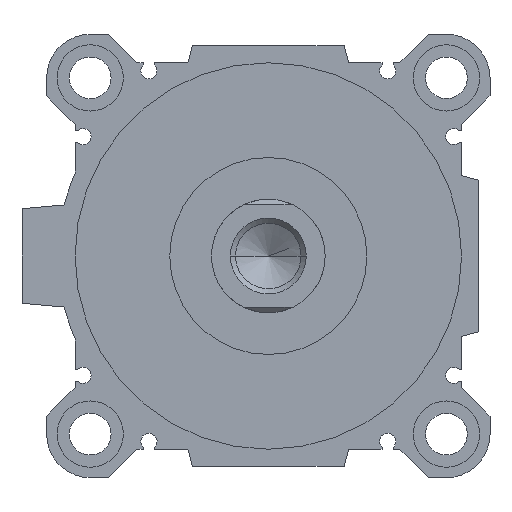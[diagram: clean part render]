
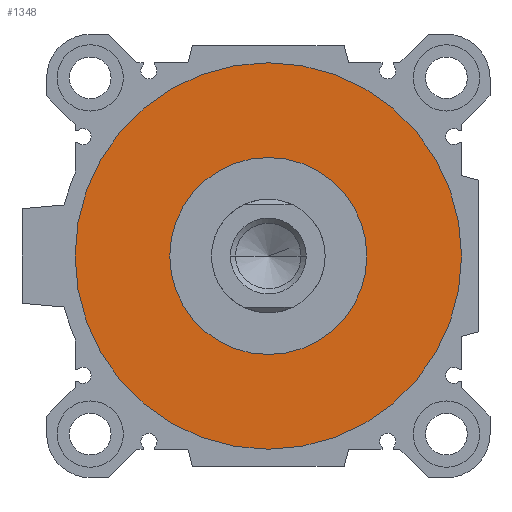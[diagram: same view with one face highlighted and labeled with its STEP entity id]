
A CAD part, left-side view. The second image highlights one B-rep face of the part: STEP entity #1348.
In plain terms, the highlighted planar face has unit normal (-1, 0, 0).
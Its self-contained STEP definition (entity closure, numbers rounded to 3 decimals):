
#160 = CARTESIAN_POINT ( 'NONE',  ( 6.5, 0., 0. ) ) ;
#183 = AXIS2_PLACEMENT_3D ( 'NONE', #5457, #1744, #1625 ) ;
#757 = VERTEX_POINT ( 'NONE', #1416 ) ;
#769 = CARTESIAN_POINT ( 'NONE',  ( 6.5, 0., 0. ) ) ;
#792 = CIRCLE ( 'NONE', #4157, 26. ) ;
#1007 = CARTESIAN_POINT ( 'NONE',  ( 6.5, 0., 51. ) ) ;
#1054 = CARTESIAN_POINT ( 'NONE',  ( 6.5, 0., 0. ) ) ;
#1107 = CARTESIAN_POINT ( 'NONE',  ( 6.5, 0., 0. ) ) ;
#1211 = CIRCLE ( 'NONE', #3434, 51. ) ;
#1348 = ADVANCED_FACE ( 'NONE', ( #3845, #3433 ), #2955, .F. ) ;
#1416 = CARTESIAN_POINT ( 'NONE',  ( 6.5, 0., -51. ) ) ;
#1625 = DIRECTION ( 'NONE',  ( 0., 1., 0. ) ) ;
#1629 = DIRECTION ( 'NONE',  ( 0., 0., -1. ) ) ;
#1690 = CIRCLE ( 'NONE', #3191, 26. ) ;
#1744 = DIRECTION ( 'NONE',  ( 1., 0., 0. ) ) ;
#1868 = VERTEX_POINT ( 'NONE', #4554 ) ;
#1899 = DIRECTION ( 'NONE',  ( 1., 0., 0. ) ) ;
#1998 = DIRECTION ( 'NONE',  ( 0., 0., -1. ) ) ;
#2244 = ORIENTED_EDGE ( 'NONE', *, *, #4383, .F. ) ;
#2769 = ORIENTED_EDGE ( 'NONE', *, *, #4760, .T. ) ;
#2783 = EDGE_CURVE ( 'NONE', #4174, #1868, #792, .T. ) ;
#2955 = PLANE ( 'NONE',  #183 ) ;
#3106 = EDGE_CURVE ( 'NONE', #757, #3885, #1211, .T. ) ;
#3140 = DIRECTION ( 'NONE',  ( 0., 0., -1. ) ) ;
#3191 = AXIS2_PLACEMENT_3D ( 'NONE', #160, #4820, #5307 ) ;
#3420 = ORIENTED_EDGE ( 'NONE', *, *, #3106, .F. ) ;
#3425 = CARTESIAN_POINT ( 'NONE',  ( 6.5, 0., -26. ) ) ;
#3433 = FACE_BOUND ( 'NONE', #4068, .T. ) ;
#3434 = AXIS2_PLACEMENT_3D ( 'NONE', #1054, #1899, #1629 ) ;
#3657 = DIRECTION ( 'NONE',  ( 1., 0., 0. ) ) ;
#3845 = FACE_OUTER_BOUND ( 'NONE', #4763, .T. ) ;
#3885 = VERTEX_POINT ( 'NONE', #1007 ) ;
#4068 = EDGE_LOOP ( 'NONE', ( #2769, #4733 ) ) ;
#4157 = AXIS2_PLACEMENT_3D ( 'NONE', #769, #3657, #1998 ) ;
#4174 = VERTEX_POINT ( 'NONE', #3425 ) ;
#4383 = EDGE_CURVE ( 'NONE', #3885, #757, #5136, .T. ) ;
#4518 = DIRECTION ( 'NONE',  ( 1., 0., 0. ) ) ;
#4554 = CARTESIAN_POINT ( 'NONE',  ( 6.5, 0., 26. ) ) ;
#4733 = ORIENTED_EDGE ( 'NONE', *, *, #2783, .T. ) ;
#4760 = EDGE_CURVE ( 'NONE', #1868, #4174, #1690, .T. ) ;
#4763 = EDGE_LOOP ( 'NONE', ( #2244, #3420 ) ) ;
#4820 = DIRECTION ( 'NONE',  ( 1., 0., 0. ) ) ;
#5136 = CIRCLE ( 'NONE', #5313, 51. ) ;
#5307 = DIRECTION ( 'NONE',  ( 0., 0., -1. ) ) ;
#5313 = AXIS2_PLACEMENT_3D ( 'NONE', #1107, #4518, #3140 ) ;
#5457 = CARTESIAN_POINT ( 'NONE',  ( 6.5, 0., 0. ) ) ;
